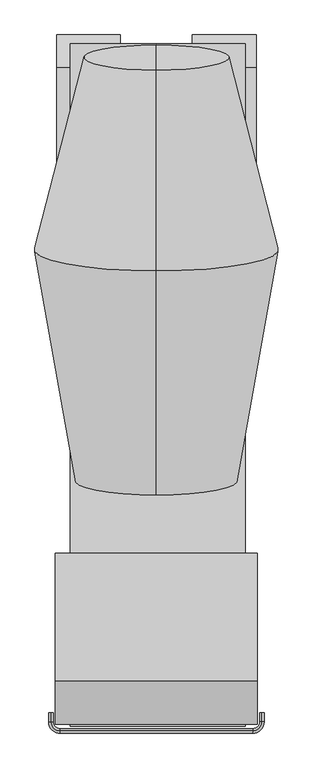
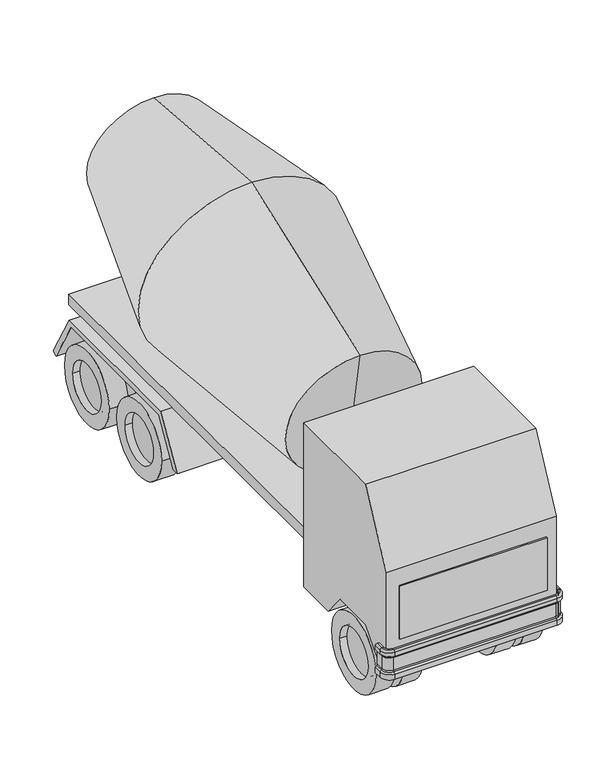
"""IFC4 building model written with IfcOpenShell, lengths in millimetres: geographic element geometry, Camion bétonnière : Camion bétonnière."""

from ifc_helpers import new_model, si_unit, point, frame, frame_2d, origin, place, context, project, spatial, polyline, circle_curve, ellipse_curve, trimmed, segment, composite_curve, outline, extrude, source, transform, mapped, element, save
from ifc_brep_helpers import plane_surface, cylinder_surface, revolved_surface, advanced_brep


def geographic_element_b339a1e2(model_context):
    return source(origin(), model_context, "Body", "SolidModel", [
        extrude(outline(composite_curve([segment(trimmed(circle_curve(frame_2d((-3129.2190592, 514.3449875)), 330.2), [point((-2799.0190592, 514.3449875))], [point((-3459.4190592, 514.3449875))], False, "CARTESIAN"), True, "CONTINUOUS"), segment(trimmed(circle_curve(frame_2d((-3129.2190592, 514.3449875)), 330.2), [point((-3459.4190592, 514.3449875))], [point((-2799.0190592, 514.3449875))], False, "CARTESIAN"), True, "CONTINUOUS")], self_intersect=False)), frame((829.1634615, 0.0, 0.0), z_axis=(1.0, 0.0, 0.0), x_axis=(0.0, 1.0, 0.0)), (0.0, 0.0, 1.0), 172.4421875),
        extrude(outline(composite_curve([segment(trimmed(circle_curve(frame_2d((1874.5809408, 514.3449875)), 330.2), [point((2204.7809408, 514.3449875))], [point((1544.3809408, 514.3449875))], False, "CARTESIAN"), True, "CONTINUOUS"), segment(trimmed(circle_curve(frame_2d((1874.5809408, 514.3449875)), 330.2), [point((1544.3809408, 514.3449875))], [point((2204.7809408, 514.3449875))], False, "CARTESIAN"), True, "CONTINUOUS")], self_intersect=False)), frame((829.1634615, 0.0, 0.0), z_axis=(1.0, 0.0, 0.0), x_axis=(0.0, 1.0, 0.0)), (0.0, 0.0, 1.0), 172.4421875),
        extrude(outline(composite_curve([segment(trimmed(circle_curve(frame_2d((3091.9615385, 514.35)), 330.2), [point((3422.1615385, 514.35))], [point((2761.7615385, 514.35))], False, "CARTESIAN"), True, "CONTINUOUS"), segment(trimmed(circle_curve(frame_2d((3091.9615385, 514.35)), 330.2), [point((2761.7615385, 514.35))], [point((3422.1615385, 514.35))], False, "CARTESIAN"), True, "CONTINUOUS")], self_intersect=False)), frame((829.1634615, 0.0, 0.0), z_axis=(1.0, 0.0, 0.0), x_axis=(0.0, 1.0, 0.0)), (0.0, 0.0, 1.0), 172.4421875),
        extrude(outline(composite_curve([segment(trimmed(circle_curve(frame_2d((-3131.0384615, 514.35)), 330.2), [point((-2800.8384615, 514.35))], [point((-3461.2384615, 514.35))], False, "CARTESIAN"), True, "CONTINUOUS"), segment(trimmed(circle_curve(frame_2d((-3131.0384615, 514.35)), 330.2), [point((-3461.2384615, 514.35))], [point((-2800.8384615, 514.35))], False, "CARTESIAN"), True, "CONTINUOUS")], self_intersect=False)), frame((-1072.859976, 0.0, 0.0), z_axis=(1.0, 0.0, 0.0), x_axis=(0.0, 1.0, 0.0)), (0.0, 0.0, 1.0), 155.7734375),
        extrude(outline(composite_curve([segment(trimmed(circle_curve(frame_2d((1872.7615385, 514.35)), 330.2), [point((2202.9615385, 514.35))], [point((1542.5615385, 514.35))], False, "CARTESIAN"), True, "CONTINUOUS"), segment(trimmed(circle_curve(frame_2d((1872.7615385, 514.35)), 330.2), [point((1542.5615385, 514.35))], [point((2202.9615385, 514.35))], False, "CARTESIAN"), True, "CONTINUOUS")], self_intersect=False)), frame((-1072.859976, 0.0, 0.0), z_axis=(1.0, 0.0, 0.0), x_axis=(0.0, 1.0, 0.0)), (0.0, 0.0, 1.0), 155.7734375),
        extrude(outline(composite_curve([segment(trimmed(circle_curve(frame_2d((3091.9615385, 514.35)), 330.2), [point((3422.1615385, 514.35))], [point((2761.7615385, 514.35))], False, "CARTESIAN"), True, "CONTINUOUS"), segment(trimmed(circle_curve(frame_2d((3091.9615385, 514.35)), 330.2), [point((2761.7615385, 514.35))], [point((3422.1615385, 514.35))], False, "CARTESIAN"), True, "CONTINUOUS")], self_intersect=False)), frame((-1072.859976, 0.0, 0.0), z_axis=(1.0, 0.0, 0.0), x_axis=(0.0, 1.0, 0.0)), (0.0, 0.0, 1.0), 155.7734375),
        extrude(outline(composite_curve([segment(trimmed(circle_curve(frame_2d((3091.9615385, 514.35)), 520.7), [point((3612.6615385, 514.35))], [point((2571.2615385, 514.35))], False, "CARTESIAN"), True, "CONTINUOUS"), segment(trimmed(circle_curve(frame_2d((3091.9615385, 514.35)), 520.7), [point((2571.2615385, 514.35))], [point((3612.6615385, 514.35))], False, "CARTESIAN"), True, "CONTINUOUS")], self_intersect=False)), frame((-805.9615385, 0.0, 0.0), z_axis=(1.0, 0.0, 0.0), x_axis=(0.0, 1.0, 0.0)), (0.0, 0.0, 1.0), 254.0),
        extrude(outline(composite_curve([segment(trimmed(circle_curve(frame_2d((-3139.2915601, 511.4267776)), 520.7), [point((-2618.5915601, 511.4267776))], [point((-3659.9915601, 511.4267776))], False, "CARTESIAN"), True, "CONTINUOUS"), segment(trimmed(circle_curve(frame_2d((-3139.2915601, 511.4267776)), 520.7), [point((-3659.9915601, 511.4267776))], [point((-2618.5915601, 511.4267776))], False, "CARTESIAN"), True, "CONTINUOUS")], self_intersect=False)), frame((-805.9615385, 0.0, 0.0), z_axis=(1.0, 0.0, 0.0), x_axis=(0.0, 1.0, 0.0)), (0.0, 0.0, 1.0), 254.0),
        extrude(outline(composite_curve([segment(trimmed(circle_curve(frame_2d((1872.7615385, 514.35)), 520.7), [point((2393.4615385, 514.35))], [point((1352.0615385, 514.35))], False, "CARTESIAN"), True, "CONTINUOUS"), segment(trimmed(circle_curve(frame_2d((1872.7615385, 514.35)), 520.7), [point((1352.0615385, 514.35))], [point((2393.4615385, 514.35))], False, "CARTESIAN"), True, "CONTINUOUS")], self_intersect=False)), frame((-805.9615385, 0.0, 0.0), z_axis=(1.0, 0.0, 0.0), x_axis=(0.0, 1.0, 0.0)), (0.0, 0.0, 1.0), 254.0),
        extrude(outline(composite_curve([segment(trimmed(circle_curve(frame_2d((3091.9615385, 514.35)), 520.7), [point((3612.6615385, 514.35))], [point((2571.2615385, 514.35))], False, "CARTESIAN"), True, "CONTINUOUS"), segment(trimmed(circle_curve(frame_2d((3091.9615385, 514.35)), 520.7), [point((2571.2615385, 514.35))], [point((3612.6615385, 514.35))], False, "CARTESIAN"), True, "CONTINUOUS")], self_intersect=False)), frame((464.0384615, 0.0, 0.0), z_axis=(1.0, 0.0, 0.0), x_axis=(0.0, 1.0, 0.0)), (0.0, 0.0, 1.0), 254.0),
        extrude(outline(composite_curve([segment(trimmed(circle_curve(frame_2d((-3131.0384615, 514.35)), 520.7), [point((-2610.3384615, 514.35))], [point((-3651.7384615, 514.35))], False, "CARTESIAN"), True, "CONTINUOUS"), segment(trimmed(circle_curve(frame_2d((-3131.0384615, 514.35)), 520.7), [point((-3651.7384615, 514.35))], [point((-2610.3384615, 514.35))], False, "CARTESIAN"), True, "CONTINUOUS")], self_intersect=False)), frame((464.0384615, 0.0, 0.0), z_axis=(1.0, 0.0, 0.0), x_axis=(0.0, 1.0, 0.0)), (0.0, 0.0, 1.0), 254.0),
        extrude(outline(composite_curve([segment(trimmed(circle_curve(frame_2d((1872.7615385, 514.35)), 520.7), [point((2393.4615385, 514.35))], [point((1352.0615385, 514.35))], False, "CARTESIAN"), True, "CONTINUOUS"), segment(trimmed(circle_curve(frame_2d((1872.7615385, 514.35)), 520.7), [point((1352.0615385, 514.35))], [point((2393.4615385, 514.35))], False, "CARTESIAN"), True, "CONTINUOUS")], self_intersect=False)), frame((464.0384615, 0.0, 0.0), z_axis=(1.0, 0.0, 0.0), x_axis=(0.0, 1.0, 0.0)), (0.0, 0.0, 1.0), 254.0),
        extrude(outline(composite_curve([segment(trimmed(circle_curve(frame_2d((3091.9615385, 514.35)), 520.7), [point((3612.6615385, 514.35))], [point((2571.2615385, 514.35))], False, "CARTESIAN"), True, "CONTINUOUS"), segment(trimmed(circle_curve(frame_2d((3091.9615385, 514.35)), 520.7), [point((2571.2615385, 514.35))], [point((3612.6615385, 514.35))], False, "CARTESIAN"), True, "CONTINUOUS")], self_intersect=False), holes=[composite_curve([segment(trimmed(circle_curve(frame_2d((3091.9615385, 514.35)), 330.2), [point((3422.1615385, 514.35))], [point((2761.7615385, 514.35))], True, "CARTESIAN"), True, "CONTINUOUS"), segment(trimmed(circle_curve(frame_2d((3091.9615385, 514.35)), 330.2), [point((2761.7615385, 514.35))], [point((3422.1615385, 514.35))], True, "CARTESIAN"), True, "CONTINUOUS")], self_intersect=False)]), frame((-1171.0865385, 0.0, 0.0), z_axis=(1.0, 0.0, 0.0), x_axis=(0.0, 1.0, 0.0)), (0.0, 0.0, 1.0), 254.0),
        extrude(outline(composite_curve([segment(trimmed(circle_curve(frame_2d((-3131.0384615, 514.35)), 520.7), [point((-2610.3384615, 514.35))], [point((-3651.7384615, 514.35))], False, "CARTESIAN"), True, "CONTINUOUS"), segment(trimmed(circle_curve(frame_2d((-3131.0384615, 514.35)), 520.7), [point((-3651.7384615, 514.35))], [point((-2610.3384615, 514.35))], False, "CARTESIAN"), True, "CONTINUOUS")], self_intersect=False), holes=[composite_curve([segment(trimmed(circle_curve(frame_2d((-3131.0384615, 514.35)), 330.2), [point((-2800.8384615, 514.35))], [point((-3461.2384615, 514.35))], True, "CARTESIAN"), True, "CONTINUOUS"), segment(trimmed(circle_curve(frame_2d((-3131.0384615, 514.35)), 330.2), [point((-3461.2384615, 514.35))], [point((-2800.8384615, 514.35))], True, "CARTESIAN"), True, "CONTINUOUS")], self_intersect=False)]), frame((-1171.0865385, 0.0, 0.0), z_axis=(1.0, 0.0, 0.0), x_axis=(0.0, 1.0, 0.0)), (0.0, 0.0, 1.0), 254.0),
        extrude(outline(composite_curve([segment(trimmed(circle_curve(frame_2d((1872.7615385, 514.35)), 520.7), [point((2393.4615385, 514.35))], [point((1352.0615385, 514.35))], False, "CARTESIAN"), True, "CONTINUOUS"), segment(trimmed(circle_curve(frame_2d((1872.7615385, 514.35)), 520.7), [point((1352.0615385, 514.35))], [point((2393.4615385, 514.35))], False, "CARTESIAN"), True, "CONTINUOUS")], self_intersect=False), holes=[composite_curve([segment(trimmed(circle_curve(frame_2d((1872.7615385, 514.35)), 330.2), [point((2202.9615385, 514.35))], [point((1542.5615385, 514.35))], True, "CARTESIAN"), True, "CONTINUOUS"), segment(trimmed(circle_curve(frame_2d((1872.7615385, 514.35)), 330.2), [point((1542.5615385, 514.35))], [point((2202.9615385, 514.35))], True, "CARTESIAN"), True, "CONTINUOUS")], self_intersect=False)]), frame((-1171.0865385, 0.0, 0.0), z_axis=(1.0, 0.0, 0.0), x_axis=(0.0, 1.0, 0.0)), (0.0, 0.0, 1.0), 254.0),
        advanced_brep(
        [(-1212.3615385, -3791.4384615, 661.0144121), (-1263.1615385, -3791.4384615, 661.0144121), (-1263.1615385, -3791.4384615, 734.1328754), (-1243.6602579, -3791.4384615, 753.634156), (-1236.2207701, -3791.4384615, 771.5946682), (-1236.2207701, -3791.4384615, 953.7526192), (-1243.6602579, -3791.4384615, 971.7131315), (-1263.1615385, -3791.4384615, 991.2144121), (-1263.1615385, -3791.4384615, 1042.0144121), (-1237.7615385, -3791.4384615, 1067.4144121), (-1212.3615385, -3791.4384615, 1067.4144121), (-1212.3615385, -3893.0384615, 661.0144121), (-1263.1615385, -3893.0384615, 661.0144121), (-1263.1615385, -3893.0384615, 734.1328754), (-1243.6602579, -3893.0384615, 753.634156), (-1236.2207701, -3893.0384615, 771.5946682), (-1236.2207701, -3893.0384615, 953.7526192), (-1243.6602579, -3893.0384615, 971.7131315), (-1263.1615385, -3893.0384615, 991.2144121), (-1263.1615385, -3893.0384615, 1042.0144121), (-1237.7615385, -3893.0384615, 1067.4144121), (-1212.3615385, -3893.0384615, 1067.4144121), (-1136.1615385, -4020.0384615, 661.0144121), (-1136.1615385, -3969.2384615, 661.0144121), (-1136.1615385, -4020.0384615, 734.1328754), (-1136.1615385, -4000.5371809, 753.634156), (-1136.1615385, -3993.0976932, 771.5946682), (-1136.1615385, -3993.0976932, 953.7526192), (-1136.1615385, -4000.5371809, 971.7131315), (-1136.1615385, -4020.0384615, 991.2144121), (-1136.1615385, -4020.0384615, 1042.0144121), (-1136.1615385, -3994.6384615, 1067.4144121), (-1136.1615385, -3969.2384615, 1067.4144121), (1048.2384615, -3969.2384615, 661.0144121), (1048.2384615, -4020.0384615, 661.0144121), (1048.2384615, -4020.0384615, 734.1328754), (1048.2384615, -4000.5371809, 753.634156), (1048.2384615, -3993.0976932, 771.5946682), (1048.2384615, -3993.0976932, 953.7526192), (1048.2384615, -4000.5371809, 971.7131315), (1048.2384615, -4020.0384615, 991.2144121), (1048.2384615, -4020.0384615, 1042.0144121), (1048.2384615, -3994.6384615, 1067.4144121), (1048.2384615, -3969.2384615, 1067.4144121), (1175.2384615, -3893.0384615, 661.0144121), (1124.4384615, -3893.0384615, 661.0144121), (1175.2384615, -3893.0384615, 734.1328754), (1155.7371809, -3893.0384615, 753.634156), (1148.2976932, -3893.0384615, 771.5946682), (1148.2976932, -3893.0384615, 953.7526192), (1155.7371809, -3893.0384615, 971.7131315), (1175.2384615, -3893.0384615, 991.2144121), (1175.2384615, -3893.0384615, 1042.0144121), (1149.8384615, -3893.0384615, 1067.4144121), (1124.4384615, -3893.0384615, 1067.4144121), (1124.4384615, -3791.4384615, 661.0144121), (1124.4384615, -3791.4384615, 1067.4144121), (1149.8384615, -3791.4384615, 1067.4144121), (1175.2384615, -3791.4384615, 1042.0144121), (1175.2384615, -3791.4384615, 991.2144121), (1155.7371809, -3791.4384615, 971.7131315), (1148.2976932, -3791.4384615, 953.7526192), (1148.2976932, -3791.4384615, 771.5946682), (1155.7371809, -3791.4384615, 753.634156), (1175.2384615, -3791.4384615, 734.1328754), (1175.2384615, -3791.4384615, 661.0144121)],
        [
            (0, 1),
            (1, 2),
            (2, 3),
            (3, 4, circle_curve(frame((-1261.6207701, -3791.4384615, 771.5946682), z_axis=(0.0, -1.0, 0.0), x_axis=(1.0, 0.0, 0.0)), 25.4)),
            (4, 5),
            (5, 6, circle_curve(frame((-1261.6207701, -3791.4384615, 953.7526192), z_axis=(0.0, -1.0, 0.0), x_axis=(1.0, 0.0, 0.0)), 25.4)),
            (6, 7),
            (7, 8),
            (8, 9, circle_curve(frame((-1237.7615385, -3791.4384615, 1042.0144121), z_axis=(0.0, 1.0, 0.0), x_axis=(1.0, 0.0, 0.0)), 25.4)),
            (9, 10),
            (10, 0),
            (0, 11),
            (11, 12),
            (12, 1),
            (12, 13),
            (13, 2),
            (13, 14),
            (14, 3),
            (14, 15, circle_curve(frame((-1261.6207701, -3893.0384615, 771.5946682), z_axis=(0.0, -1.0, 0.0), x_axis=(1.0, 0.0, 0.0)), 25.4)),
            (15, 4),
            (15, 16),
            (16, 5),
            (16, 17, circle_curve(frame((-1261.6207701, -3893.0384615, 953.7526192), z_axis=(0.0, -1.0, 0.0), x_axis=(1.0, 0.0, 0.0)), 25.4)),
            (17, 6),
            (17, 18),
            (18, 7),
            (18, 19),
            (19, 8),
            (19, 20, circle_curve(frame((-1237.7615385, -3893.0384615, 1042.0144121), z_axis=(0.0, 1.0, 0.0), x_axis=(1.0, 0.0, 0.0)), 25.4)),
            (20, 9),
            (20, 21),
            (21, 10),
            (21, 11),
            (22, 12, circle_curve(frame((-1136.1615385, -3893.0384615, 661.0144121), z_axis=(0.0, 0.0, -1.0), x_axis=(-1.0, 0.0, 0.0)), 127.0)),
            (11, 23, circle_curve(frame((-1136.1615385, -3893.0384615, 661.0144121), z_axis=(0.0, 0.0, 1.0), x_axis=(-1.0, 0.0, 0.0)), 76.2)),
            (23, 22),
            (24, 13, circle_curve(frame((-1136.1615385, -3893.0384615, 734.1328754), z_axis=(0.0, 0.0, -1.0), x_axis=(-1.0, 0.0, 0.0)), 127.0)),
            (22, 24),
            (25, 14, circle_curve(frame((-1136.1615385, -3893.0384615, 753.634156), z_axis=(0.0, 0.0, -1.0), x_axis=(-1.0, 0.0, 0.0)), 107.4987194)),
            (24, 25),
            (26, 15, circle_curve(frame((-1136.1615385, -3893.0384615, 771.5946682), z_axis=(0.0, 0.0, -1.0), x_axis=(-1.0, 0.0, 0.0)), 100.0592316)),
            (25, 26, circle_curve(frame((-1136.1615385, -4018.4976932, 771.5946682), z_axis=(1.0, 0.0, 0.0), x_axis=(0.0, 1.0, 0.0)), 25.4)),
            (27, 16, circle_curve(frame((-1136.1615385, -3893.0384615, 953.7526192), z_axis=(0.0, 0.0, -1.0), x_axis=(-1.0, 0.0, 0.0)), 100.0592316)),
            (26, 27),
            (28, 17, circle_curve(frame((-1136.1615385, -3893.0384615, 971.7131315), z_axis=(0.0, 0.0, -1.0), x_axis=(-1.0, 0.0, 0.0)), 107.4987194)),
            (27, 28, circle_curve(frame((-1136.1615385, -4018.4976932, 953.7526192), z_axis=(1.0, 0.0, 0.0), x_axis=(0.0, 1.0, 0.0)), 25.4)),
            (29, 18, circle_curve(frame((-1136.1615385, -3893.0384615, 991.2144121), z_axis=(0.0, 0.0, -1.0), x_axis=(-1.0, 0.0, 0.0)), 127.0)),
            (28, 29),
            (30, 19, circle_curve(frame((-1136.1615385, -3893.0384615, 1042.0144121), z_axis=(0.0, 0.0, -1.0), x_axis=(-1.0, 0.0, 0.0)), 127.0)),
            (29, 30),
            (31, 20, circle_curve(frame((-1136.1615385, -3893.0384615, 1067.4144121), z_axis=(0.0, 0.0, -1.0), x_axis=(-1.0, 0.0, 0.0)), 101.6)),
            (30, 31, circle_curve(frame((-1136.1615385, -3994.6384615, 1042.0144121), z_axis=(-1.0, 0.0, 0.0), x_axis=(0.0, 1.0, 0.0)), 25.4)),
            (32, 21, circle_curve(frame((-1136.1615385, -3893.0384615, 1067.4144121), z_axis=(0.0, 0.0, -1.0), x_axis=(-1.0, 0.0, 0.0)), 76.2)),
            (31, 32),
            (32, 23),
            (23, 33),
            (33, 34),
            (34, 22),
            (34, 35),
            (35, 24),
            (35, 36),
            (36, 25),
            (36, 37, circle_curve(frame((1048.2384615, -4018.4976932, 771.5946682), z_axis=(1.0, 0.0, 0.0), x_axis=(0.0, 1.0, 0.0)), 25.4)),
            (37, 26),
            (37, 38),
            (38, 27),
            (38, 39, circle_curve(frame((1048.2384615, -4018.4976932, 953.7526192), z_axis=(1.0, 0.0, 0.0), x_axis=(0.0, 1.0, 0.0)), 25.4)),
            (39, 28),
            (39, 40),
            (40, 29),
            (40, 41),
            (41, 30),
            (41, 42, circle_curve(frame((1048.2384615, -3994.6384615, 1042.0144121), z_axis=(-1.0, 0.0, 0.0), x_axis=(0.0, 1.0, 0.0)), 25.4)),
            (42, 31),
            (42, 43),
            (43, 32),
            (43, 33),
            (44, 34, circle_curve(frame((1048.2384615, -3893.0384615, 661.0144121), z_axis=(0.0, 0.0, -1.0), x_axis=(0.0, -1.0, 0.0)), 127.0)),
            (33, 45, circle_curve(frame((1048.2384615, -3893.0384615, 661.0144121), z_axis=(0.0, 0.0, 1.0), x_axis=(0.0, -1.0, 0.0)), 76.2)),
            (45, 44),
            (46, 35, circle_curve(frame((1048.2384615, -3893.0384615, 734.1328754), z_axis=(0.0, 0.0, -1.0), x_axis=(0.0, -1.0, 0.0)), 127.0)),
            (44, 46),
            (47, 36, circle_curve(frame((1048.2384615, -3893.0384615, 753.634156), z_axis=(0.0, 0.0, -1.0), x_axis=(0.0, -1.0, 0.0)), 107.4987194)),
            (46, 47),
            (48, 37, circle_curve(frame((1048.2384615, -3893.0384615, 771.5946682), z_axis=(0.0, 0.0, -1.0), x_axis=(0.0, -1.0, 0.0)), 100.0592316)),
            (47, 48, circle_curve(frame((1173.6976932, -3893.0384615, 771.5946682), z_axis=(0.0, 1.0, 0.0), x_axis=(-1.0, 0.0, 0.0)), 25.4)),
            (49, 38, circle_curve(frame((1048.2384615, -3893.0384615, 953.7526192), z_axis=(0.0, 0.0, -1.0), x_axis=(0.0, -1.0, 0.0)), 100.0592316)),
            (48, 49),
            (50, 39, circle_curve(frame((1048.2384615, -3893.0384615, 971.7131315), z_axis=(0.0, 0.0, -1.0), x_axis=(0.0, -1.0, 0.0)), 107.4987194)),
            (49, 50, circle_curve(frame((1173.6976932, -3893.0384615, 953.7526192), z_axis=(0.0, 1.0, 0.0), x_axis=(-1.0, 0.0, 0.0)), 25.4)),
            (51, 40, circle_curve(frame((1048.2384615, -3893.0384615, 991.2144121), z_axis=(0.0, 0.0, -1.0), x_axis=(0.0, -1.0, 0.0)), 127.0)),
            (50, 51),
            (52, 41, circle_curve(frame((1048.2384615, -3893.0384615, 1042.0144121), z_axis=(0.0, 0.0, -1.0), x_axis=(0.0, -1.0, 0.0)), 127.0)),
            (51, 52),
            (53, 42, circle_curve(frame((1048.2384615, -3893.0384615, 1067.4144121), z_axis=(0.0, 0.0, -1.0), x_axis=(0.0, -1.0, 0.0)), 101.6)),
            (52, 53, circle_curve(frame((1149.8384615, -3893.0384615, 1042.0144121), z_axis=(0.0, -1.0, 0.0), x_axis=(-1.0, 0.0, 0.0)), 25.4)),
            (54, 43, circle_curve(frame((1048.2384615, -3893.0384615, 1067.4144121), z_axis=(0.0, 0.0, -1.0), x_axis=(0.0, -1.0, 0.0)), 76.2)),
            (53, 54),
            (54, 45),
            (55, 56),
            (56, 57),
            (57, 58, circle_curve(frame((1149.8384615, -3791.4384615, 1042.0144121), z_axis=(0.0, 1.0, 0.0), x_axis=(-1.0, 0.0, 0.0)), 25.4)),
            (58, 59),
            (59, 60),
            (60, 61, circle_curve(frame((1173.6976932, -3791.4384615, 953.7526192), z_axis=(0.0, -1.0, 0.0), x_axis=(-1.0, 0.0, 0.0)), 25.4)),
            (61, 62),
            (62, 63, circle_curve(frame((1173.6976932, -3791.4384615, 771.5946682), z_axis=(0.0, -1.0, 0.0), x_axis=(-1.0, 0.0, 0.0)), 25.4)),
            (63, 64),
            (64, 65),
            (65, 55),
            (45, 55),
            (65, 44),
            (64, 46),
            (63, 47),
            (62, 48),
            (61, 49),
            (60, 50),
            (59, 51),
            (58, 52),
            (57, 53),
            (56, 54),
        ],
        [
            plane_surface(frame((-2331.7840944, -3791.4384615, 0.0), z_axis=(0.0, 1.0, 0.0), x_axis=(0.0, 0.0, -1.0))),
            plane_surface(frame((-1212.3615385, -3791.4384615, 661.0144121), z_axis=(0.0, 0.0, -1.0), x_axis=(0.0, -1.0, 0.0))),
            plane_surface(frame((-1263.1615385, -3791.4384615, 661.0144121), z_axis=(-1.0, 0.0, 0.0), x_axis=(0.0, -1.0, 0.0))),
            plane_surface(frame((-1263.1615385, -3791.4384615, 734.1328754), z_axis=(-0.7071067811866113, 0.0, 0.7071067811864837), x_axis=(0.0, -1.0, 0.0))),
            revolved_surface(polyline([(-1236.2207701, -3893.0384615, 771.5946682), (-1236.2207701, -3791.4384615, 771.5946682)]), (-1261.6207701, -3791.4384615, 771.5946682), (0.0, -1.0, 0.0)),
            plane_surface(frame((-1236.2207701, -3791.4384615, 771.5946682), z_axis=(-1.0, 0.0, 0.0), x_axis=(0.0, -1.0, 0.0))),
            revolved_surface(polyline([(-1236.2207701, -3893.0384615, 953.7526192), (-1236.2207701, -3791.4384615, 953.7526192)]), (-1261.6207701, -3791.4384615, 953.7526192), (0.0, -1.0, 0.0)),
            plane_surface(frame((-1243.6602579, -3791.4384615, 971.7131315), z_axis=(-0.7071067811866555, 0.0, -0.7071067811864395), x_axis=(0.0, -1.0, 0.0))),
            plane_surface(frame((-1263.1615385, -3791.4384615, 991.2144121), z_axis=(-1.0, 0.0, 0.0), x_axis=(0.0, -1.0, 0.0))),
            cylinder_surface(frame((-1237.7615385, -3791.4384615, 1042.0144121), z_axis=(0.0, 1.0, 0.0), x_axis=(1.0, 0.0, 0.0)), 25.4),
            plane_surface(frame((-1237.7615385, -3791.4384615, 1067.4144121), z_axis=(0.0, 0.0, 1.0), x_axis=(0.0, -1.0, 0.0))),
            plane_surface(frame((-1212.3615385, -3791.4384615, 1067.4144121), z_axis=(1.0, 0.0, 0.0), x_axis=(0.0, -1.0, 0.0))),
            plane_surface(frame((-1136.1615385, -3893.0384615, 661.0144121), z_axis=(0.0, 0.0, -1.0), x_axis=(-1.0, 0.0, 0.0))),
            cylinder_surface(frame((-1136.1615385, -3893.0384615, 0.0), z_axis=(0.0, 0.0, 1.0), x_axis=(-1.0, 0.0, 0.0)), 127.0),
            revolved_surface(polyline([(-1263.1615385, -3893.0384615, 734.1328754), (-1243.6602579, -3893.0384615, 753.634156)]), (-1136.1615385, -3893.0384615, 0.0), (0.0, 0.0, 1.0)),
            revolved_surface(trimmed(ellipse_curve(frame((-1261.6207701, -3893.0384615, 771.5946682), z_axis=(0.0, -1.0, 0.0), x_axis=(1.0, 0.0, 0.0)), 25.4, 25.4), [point((-1243.6602579, -3893.0384615, 753.634156))], [point((-1236.2207701, -3893.0384615, 771.5946682))], True, "CARTESIAN"), (-1136.1615385, -3893.0384615, 0.0), (0.0, 0.0, 1.0)),
            cylinder_surface(frame((-1136.1615385, -3893.0384615, 0.0), z_axis=(0.0, 0.0, 1.0), x_axis=(-1.0, 0.0, 0.0)), 100.0592316),
            revolved_surface(trimmed(ellipse_curve(frame((-1261.6207701, -3893.0384615, 953.7526192), z_axis=(0.0, -1.0, 0.0), x_axis=(1.0, 0.0, 0.0)), 25.4, 25.4), [point((-1236.2207701, -3893.0384615, 953.7526192))], [point((-1243.6602579, -3893.0384615, 971.7131315))], True, "CARTESIAN"), (-1136.1615385, -3893.0384615, 0.0), (0.0, 0.0, 1.0)),
            revolved_surface(polyline([(-1243.6602579, -3893.0384615, 971.7131315), (-1263.1615385, -3893.0384615, 991.2144121)]), (-1136.1615385, -3893.0384615, 0.0), (0.0, 0.0, 1.0)),
            revolved_surface(trimmed(ellipse_curve(frame((-1237.7615385, -3893.0384615, 1042.0144121), z_axis=(0.0, 1.0, 0.0), x_axis=(1.0, 0.0, 0.0)), 25.4, 25.4), [point((-1263.1615385, -3893.0384615, 1042.0144121))], [point((-1237.7615385, -3893.0384615, 1067.4144121))], True, "CARTESIAN"), (-1136.1615385, -3893.0384615, 0.0), (0.0, 0.0, 1.0)),
            plane_surface(frame((-1136.1615385, -3893.0384615, 1067.4144121), z_axis=(0.0, 0.0, 1.0), x_axis=(-1.0, 0.0, 0.0))),
            revolved_surface(polyline([(-1212.3615385, -3893.0384615, 1067.4144121), (-1212.3615385, -3893.0384615, 661.0144121)]), (-1136.1615385, -3893.0384615, 0.0), (0.0, 0.0, 1.0)),
            plane_surface(frame((-1136.1615385, -3969.2384615, 661.0144121), z_axis=(0.0, 0.0, -1.0), x_axis=(1.0, 0.0, 0.0))),
            plane_surface(frame((-1136.1615385, -4020.0384615, 661.0144121), z_axis=(0.0, -1.0, 0.0), x_axis=(1.0, 0.0, 0.0))),
            plane_surface(frame((-1136.1615385, -4020.0384615, 734.1328754), z_axis=(0.0, -0.7071067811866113, 0.7071067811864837), x_axis=(1.0, 0.0, 0.0))),
            revolved_surface(polyline([(1048.2384615, -3993.0976932, 771.5946682), (-1136.1615385, -3993.0976932, 771.5946682)]), (-1136.1615385, -4018.4976932, 771.5946682), (1.0, 0.0, 0.0)),
            plane_surface(frame((-1136.1615385, -3993.0976932, 771.5946682), z_axis=(0.0, -1.0, 0.0), x_axis=(1.0, 0.0, 0.0))),
            revolved_surface(polyline([(1048.2384615, -3993.0976932, 953.7526192), (-1136.1615385, -3993.0976932, 953.7526192)]), (-1136.1615385, -4018.4976932, 953.7526192), (1.0, 0.0, 0.0)),
            plane_surface(frame((-1136.1615385, -4000.5371809, 971.7131315), z_axis=(0.0, -0.7071067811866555, -0.7071067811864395), x_axis=(1.0, 0.0, 0.0))),
            plane_surface(frame((-1136.1615385, -4020.0384615, 991.2144121), z_axis=(0.0, -1.0, 0.0), x_axis=(1.0, 0.0, 0.0))),
            cylinder_surface(frame((-1136.1615385, -3994.6384615, 1042.0144121), z_axis=(-1.0, 0.0, 0.0), x_axis=(0.0, 1.0, 0.0)), 25.4),
            plane_surface(frame((-1136.1615385, -3994.6384615, 1067.4144121), z_axis=(0.0, 0.0, 1.0), x_axis=(1.0, 0.0, 0.0))),
            plane_surface(frame((-1136.1615385, -3969.2384615, 1067.4144121), z_axis=(0.0, 1.0, 0.0), x_axis=(1.0, 0.0, 0.0))),
            plane_surface(frame((1048.2384615, -3893.0384615, 661.0144121), z_axis=(0.0, 0.0, -1.0), x_axis=(0.0, -1.0, 0.0))),
            cylinder_surface(frame((1048.2384615, -3893.0384615, 0.0), z_axis=(0.0, 0.0, 1.0), x_axis=(0.0, -1.0, 0.0)), 127.0),
            revolved_surface(polyline([(1048.2384615, -4020.0384615, 734.1328754), (1048.2384615, -4000.5371809, 753.634156)]), (1048.2384615, -3893.0384615, 0.0), (0.0, 0.0, 1.0)),
            revolved_surface(trimmed(ellipse_curve(frame((1048.2384615, -4018.4976932, 771.5946682), z_axis=(1.0, 0.0, 0.0), x_axis=(0.0, 1.0, 0.0)), 25.4, 25.4), [point((1048.2384615, -4000.5371809, 753.634156))], [point((1048.2384615, -3993.0976932, 771.5946682))], True, "CARTESIAN"), (1048.2384615, -3893.0384615, 0.0), (0.0, 0.0, 1.0)),
            cylinder_surface(frame((1048.2384615, -3893.0384615, 0.0), z_axis=(0.0, 0.0, 1.0), x_axis=(0.0, -1.0, 0.0)), 100.0592316),
            revolved_surface(trimmed(ellipse_curve(frame((1048.2384615, -4018.4976932, 953.7526192), z_axis=(1.0, 0.0, 0.0), x_axis=(0.0, 1.0, 0.0)), 25.4, 25.4), [point((1048.2384615, -3993.0976932, 953.7526192))], [point((1048.2384615, -4000.5371809, 971.7131315))], True, "CARTESIAN"), (1048.2384615, -3893.0384615, 0.0), (0.0, 0.0, 1.0)),
            revolved_surface(polyline([(1048.2384615, -4000.5371809, 971.7131315), (1048.2384615, -4020.0384615, 991.2144121)]), (1048.2384615, -3893.0384615, 0.0), (0.0, 0.0, 1.0)),
            revolved_surface(trimmed(ellipse_curve(frame((1048.2384615, -3994.6384615, 1042.0144121), z_axis=(-1.0, 0.0, 0.0), x_axis=(0.0, 1.0, 0.0)), 25.4, 25.4), [point((1048.2384615, -4020.0384615, 1042.0144121))], [point((1048.2384615, -3994.6384615, 1067.4144121))], True, "CARTESIAN"), (1048.2384615, -3893.0384615, 0.0), (0.0, 0.0, 1.0)),
            plane_surface(frame((1048.2384615, -3893.0384615, 1067.4144121), z_axis=(0.0, 0.0, 1.0), x_axis=(0.0, -1.0, 0.0))),
            revolved_surface(polyline([(1048.2384615, -3969.2384614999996, 1067.4144121), (1048.2384615, -3969.2384614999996, 661.0144121)]), (1048.2384615, -3893.0384615, 0.0), (0.0, 0.0, 1.0)),
            plane_surface(frame((106.6159056, -3791.4384615, 0.0), z_axis=(0.0, 1.0, 0.0), x_axis=(0.0, 0.0, 1.0))),
            plane_surface(frame((1124.4384615, -3893.0384615, 661.0144121), z_axis=(0.0, 0.0, -1.0), x_axis=(0.0, 1.0, 0.0))),
            plane_surface(frame((1175.2384615, -3893.0384615, 661.0144121), z_axis=(1.0, 0.0, 0.0), x_axis=(0.0, 1.0, 0.0))),
            plane_surface(frame((1175.2384615, -3893.0384615, 734.1328754), z_axis=(0.7071067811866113, 0.0, 0.7071067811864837), x_axis=(0.0, 1.0, 0.0))),
            revolved_surface(polyline([(1148.2976932, -3791.4384615, 771.5946682), (1148.2976932, -3893.0384615, 771.5946682)]), (1173.6976932, -3893.0384615, 771.5946682), (0.0, 1.0, 0.0)),
            plane_surface(frame((1148.2976932, -3893.0384615, 771.5946682), z_axis=(1.0, 0.0, 0.0), x_axis=(0.0, 1.0, 0.0))),
            revolved_surface(polyline([(1148.2976932, -3791.4384615, 953.7526192), (1148.2976932, -3893.0384615, 953.7526192)]), (1173.6976932, -3893.0384615, 953.7526192), (0.0, 1.0, 0.0)),
            plane_surface(frame((1155.7371809, -3893.0384615, 971.7131315), z_axis=(0.7071067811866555, 0.0, -0.7071067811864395), x_axis=(0.0, 1.0, 0.0))),
            plane_surface(frame((1175.2384615, -3893.0384615, 991.2144121), z_axis=(1.0, 0.0, 0.0), x_axis=(0.0, 1.0, 0.0))),
            cylinder_surface(frame((1149.8384615, -3893.0384615, 1042.0144121), z_axis=(0.0, -1.0, 0.0), x_axis=(-1.0, 0.0, 0.0)), 25.4),
            plane_surface(frame((1149.8384615, -3893.0384615, 1067.4144121), z_axis=(0.0, 0.0, 1.0), x_axis=(0.0, 1.0, 0.0))),
            plane_surface(frame((1124.4384615, -3893.0384615, 1067.4144121), z_axis=(-1.0, 0.0, 0.0), x_axis=(0.0, 1.0, 0.0))),
        ],
        [
            (0, [[1, 2, 3, 4, 5, 6, 7, 8, 9, 10, 11]]),
            (1, [[-1, 12, 13, 14]]),
            (2, [[-2, -14, 15, 16]]),
            (3, [[-3, -16, 17, 18]]),
            (4, [[-4, -18, 19, 20]]),
            (5, [[-5, -20, 21, 22]]),
            (6, [[-6, -22, 23, 24]]),
            (7, [[-7, -24, 25, 26]]),
            (8, [[-8, -26, 27, 28]]),
            (9, [[-9, -28, 29, 30]]),
            (10, [[-10, -30, 31, 32]]),
            (11, [[-11, -32, 33, -12]]),
            (12, [[34, -13, 35, 36]]),
            (13, [[37, -15, -34, 38]]),
            (14, [[39, -17, -37, 40]]),
            (15, [[41, -19, -39, 42]]),
            (16, [[43, -21, -41, 44]]),
            (17, [[45, -23, -43, 46]]),
            (18, [[47, -25, -45, 48]]),
            (13, [[49, -27, -47, 50]]),
            (19, [[51, -29, -49, 52]]),
            (20, [[53, -31, -51, 54]]),
            (21, [[-35, -33, -53, 55]]),
            (22, [[-36, 56, 57, 58]]),
            (23, [[-38, -58, 59, 60]]),
            (24, [[-40, -60, 61, 62]]),
            (25, [[-42, -62, 63, 64]]),
            (26, [[-44, -64, 65, 66]]),
            (27, [[-46, -66, 67, 68]]),
            (28, [[-48, -68, 69, 70]]),
            (29, [[-50, -70, 71, 72]]),
            (30, [[-52, -72, 73, 74]]),
            (31, [[-54, -74, 75, 76]]),
            (32, [[-55, -76, 77, -56]]),
            (33, [[78, -57, 79, 80]]),
            (34, [[81, -59, -78, 82]]),
            (35, [[83, -61, -81, 84]]),
            (36, [[85, -63, -83, 86]]),
            (37, [[87, -65, -85, 88]]),
            (38, [[89, -67, -87, 90]]),
            (39, [[91, -69, -89, 92]]),
            (34, [[93, -71, -91, 94]]),
            (40, [[95, -73, -93, 96]]),
            (41, [[97, -75, -95, 98]]),
            (42, [[-79, -77, -97, 99]]),
            (43, [[100, 101, 102, 103, 104, 105, 106, 107, 108, 109, 110]]),
            (44, [[-80, 111, -110, 112]]),
            (45, [[-82, -112, -109, 113]]),
            (46, [[-84, -113, -108, 114]]),
            (47, [[-86, -114, -107, 115]]),
            (48, [[-88, -115, -106, 116]]),
            (49, [[-90, -116, -105, 117]]),
            (50, [[-92, -117, -104, 118]]),
            (51, [[-94, -118, -103, 119]]),
            (52, [[-96, -119, -102, 120]]),
            (53, [[-98, -120, -101, 121]]),
            (54, [[-99, -121, -100, -111]]),
        ],
    ),
        extrude(outline(composite_curve([segment(trimmed(circle_curve(frame_2d((3091.9615385, 514.35)), 520.7), [point((3612.6615385, 514.35))], [point((2571.2615385, 514.35))], False, "CARTESIAN"), True, "CONTINUOUS"), segment(trimmed(circle_curve(frame_2d((3091.9615385, 514.35)), 520.7), [point((2571.2615385, 514.35))], [point((3612.6615385, 514.35))], False, "CARTESIAN"), True, "CONTINUOUS")], self_intersect=False), holes=[composite_curve([segment(trimmed(circle_curve(frame_2d((3091.9615385, 514.35)), 330.2), [point((3422.1615385, 514.35))], [point((2761.7615385, 514.35))], True, "CARTESIAN"), True, "CONTINUOUS"), segment(trimmed(circle_curve(frame_2d((3091.9615385, 514.35)), 330.2), [point((2761.7615385, 514.35))], [point((3422.1615385, 514.35))], True, "CARTESIAN"), True, "CONTINUOUS")], self_intersect=False)]), frame((829.1634615, 0.0, 0.0), z_axis=(1.0, 0.0, 0.0), x_axis=(0.0, 1.0, 0.0)), (0.0, 0.0, 1.0), 254.0),
        extrude(outline(composite_curve([segment(trimmed(circle_curve(frame_2d((-3131.0384615, 514.35)), 520.7), [point((-2610.3384615, 514.35))], [point((-3651.7384615, 514.35))], False, "CARTESIAN"), True, "CONTINUOUS"), segment(trimmed(circle_curve(frame_2d((-3131.0384615, 514.35)), 520.7), [point((-3651.7384615, 514.35))], [point((-2610.3384615, 514.35))], False, "CARTESIAN"), True, "CONTINUOUS")], self_intersect=False), holes=[composite_curve([segment(trimmed(circle_curve(frame_2d((-3131.0384615, 514.35)), 330.2), [point((-2800.8384615, 514.35))], [point((-3461.2384615, 514.35))], True, "CARTESIAN"), True, "CONTINUOUS"), segment(trimmed(circle_curve(frame_2d((-3131.0384615, 514.35)), 330.2), [point((-3461.2384615, 514.35))], [point((-2800.8384615, 514.35))], True, "CARTESIAN"), True, "CONTINUOUS")], self_intersect=False)]), frame((829.1634615, 0.0, 0.0), z_axis=(1.0, 0.0, 0.0), x_axis=(0.0, 1.0, 0.0)), (0.0, 0.0, 1.0), 254.0),
        extrude(outline(composite_curve([segment(trimmed(circle_curve(frame_2d((1872.7615385, 514.35)), 520.7), [point((2393.4615385, 514.35))], [point((1352.0615385, 514.35))], False, "CARTESIAN"), True, "CONTINUOUS"), segment(trimmed(circle_curve(frame_2d((1872.7615385, 514.35)), 520.7), [point((1352.0615385, 514.35))], [point((2393.4615385, 514.35))], False, "CARTESIAN"), True, "CONTINUOUS")], self_intersect=False), holes=[composite_curve([segment(trimmed(circle_curve(frame_2d((1872.7615385, 514.35)), 330.2), [point((2202.9615385, 514.35))], [point((1542.5615385, 514.35))], True, "CARTESIAN"), True, "CONTINUOUS"), segment(trimmed(circle_curve(frame_2d((1872.7615385, 514.35)), 330.2), [point((1542.5615385, 514.35))], [point((2202.9615385, 514.35))], True, "CARTESIAN"), True, "CONTINUOUS")], self_intersect=False)]), frame((829.1634615, 0.0, 0.0), z_axis=(1.0, 0.0, 0.0), x_axis=(0.0, 1.0, 0.0)), (0.0, 0.0, 1.0), 254.0),
        extrude(outline(polyline([(362.4384615, 3777.7615385), (362.4384615, -1683.2384615), (725.7603556, -1683.2384615), (725.7603556, -3004.0384615), (-798.2396444, -3004.0384615), (-798.2396444, -1683.2384615), (-450.3615385, -1683.2384615), (-450.3615385, 3777.7615385), (362.4384615, 3777.7615385)])), frame((0.0, 0.0, 711.2), z_axis=(0.0, 0.0, 1.0), x_axis=(1.0, 0.0, 0.0)), (0.0, 0.0, 1.0), 508.0),
        advanced_brep(
        [(-43.9615385, -1168.0113462, 2355.2104547), (-43.9615385, -1009.570534, 1454.7367752), (-43.9615385, -1326.4521585, 3255.6841343), (-43.9615385, 1686.1636133, 1454.7367752), (-43.9615385, 1207.3779879, 4175.8403069), (-43.9615385, 3762.828493, 2387.7409698), (-43.9615385, 3477.789427, 4007.7161067), (-43.9615385, 3620.30896, 3197.7285383)],
        [
            (0, 1),
            (1, 2, circle_curve(frame((-43.9615385, -1168.0113462, 2355.2104547), z_axis=(0.0, -0.9848707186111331, -0.17329070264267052), x_axis=(0.0, 0.17329070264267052, -0.9848707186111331)), 914.3064795)),
            (2, 0),
            (2, 1, circle_curve(frame((-43.9615385, -1168.0113462, 2355.2104547), z_axis=(0.0, -0.9848707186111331, -0.17329070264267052), x_axis=(0.0, 0.17329070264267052, -0.9848707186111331)), 914.3064795)),
            (1, 3),
            (3, 4, circle_curve(frame((-43.9615385, 1446.7708006, 2815.2885411), z_axis=(0.0, -0.9848707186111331, -0.17329070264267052), x_axis=(0.0, 0.17329070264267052, -0.9848707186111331)), 1381.452144)),
            (4, 2),
            (4, 3, circle_curve(frame((-43.9615385, 1446.7708006, 2815.2885411), z_axis=(0.0, -0.9848707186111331, -0.17329070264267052), x_axis=(0.0, 0.17329070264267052, -0.9848707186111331)), 1381.452144)),
            (3, 5),
            (5, 6, circle_curve(frame((-43.9615385, 3620.30896, 3197.7285383), z_axis=(0.0, -0.9848707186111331, -0.17329070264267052), x_axis=(0.0, 0.17329070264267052, -0.9848707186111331)), 822.4303486)),
            (6, 4),
            (5, 7),
            (7, 6),
            (5, 6, circle_curve(frame((-43.9615385, 3620.30896, 3197.7285383), z_axis=(0.0, 0.9848707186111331, 0.17329070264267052), x_axis=(0.0, 0.17329070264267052, -0.9848707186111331)), 822.4303486)),
        ],
        [
            plane_surface(frame((-43.9615385, -1168.0113462, 2355.2104547), z_axis=(0.0, -0.9848707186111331, -0.17329070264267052), x_axis=(0.0, 0.17329070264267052, -0.9848707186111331))),
            revolved_surface(polyline([(-43.9615385, 1686.1636133, 1454.7367752), (-43.9615385, -1009.570534, 1454.7367752)]), (-43.9615385, -1168.0113462, 2355.2104547), (0.0, -0.9848707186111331, -0.17329070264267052)),
            revolved_surface(polyline([(-43.9615385, 3762.828493, 2387.7409698), (-43.9615385, 1686.1636133, 1454.7367752)]), (-43.9615385, -1168.0113462, 2355.2104547), (0.0, -0.9848707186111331, -0.17329070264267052)),
            plane_surface(frame((-43.9615385, 3620.30896, 3197.7285383), z_axis=(0.0, 0.9848707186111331, 0.17329070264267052), x_axis=(0.0, 0.17329070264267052, -0.9848707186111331))),
        ],
        [
            (0, [[1, 2, 3]]),
            (0, [[-3, 4, -1]]),
            (1, [[-2, 5, 6, 7]]),
            (1, [[-4, -7, 8, -5]]),
            (2, [[-6, 9, 10, 11]]),
            (3, [[-10, 12, 13]]),
            (3, [[14, -13, -12]]),
            (2, [[-8, -11, -14, -9]]),
        ],
    ),
        extrude(outline(polyline([(-1988.0384615, 3098.8), (-1988.0384615, 762.0), (-2559.5384615, 762.0), (-2843.3895639, 1100.280571), (-3438.6103421, 1100.280571), (-3723.9042167, 760.280571), (-3918.0646084, 760.280571), (-3918.0646084, 2133.6), (-3436.7074529, 3098.8), (-1988.0384615, 3098.8)])), frame((-1186.9615385, 0.0, 0.0), z_axis=(1.0, 0.0, 0.0), x_axis=(0.0, 1.0, 0.0)), (0.0, 0.0, 1.0), 2286.0),
        extrude(outline(polyline([(961.348456, -3941.4802334), (-1020.2612622, -3941.4802334), (-1020.2612622, -3918.0646084), (961.348456, -3918.0646084), (961.348456, -3941.4802334)])), frame((0.0, 0.0, 1143.0), z_axis=(0.0, 0.0, 1.0), x_axis=(1.0, 0.0, 0.0)), (0.0, 0.0, 1.0), 750.2675431),
        extrude(outline(polyline([(3504.4692149, 1219.2), (3876.2424022, 557.8623027), (3809.818509, 520.5218901), (3459.8903681, 1143.0), (1414.8633054, 1143.0), (1077.8573959, 559.2886423), (989.8692149, 559.2886423), (1370.8692149, 1219.2), (3504.4692149, 1219.2)])), frame((362.4384615, 0.0, 0.0), z_axis=(1.0, 0.0, 0.0), x_axis=(0.0, 1.0, 0.0)), (0.0, 0.0, 1.0), 720.725),
        extrude(outline(polyline([(3504.4692149, 1219.2), (3876.2424022, 557.8623027), (3809.818509, 520.5218901), (3459.8903681, 1143.0), (1414.8633054, 1143.0), (1077.8573959, 559.2886423), (989.8692149, 559.2886423), (1370.8692149, 1219.2), (3504.4692149, 1219.2)])), frame((-1171.0865385, 0.0, 0.0), z_axis=(1.0, 0.0, 0.0), x_axis=(0.0, 1.0, 0.0)), (0.0, 0.0, 1.0), 720.725),
        extrude(outline(polyline([(961.348456, -1988.0384615), (-1019.851544, -1988.0384615), (-1019.851544, 3777.7615385), (961.348456, 3777.7615385), (961.348456, -1988.0384615)])), frame((0.0, 0.0, 1219.2), z_axis=(0.0, 0.0, 1.0), x_axis=(1.0, 0.0, 0.0)), (0.0, 0.0, 1.0), 150.6140625),
    ])


if __name__ == "__main__":
    model = new_model("IFC4")
    model_context = context("Model", 3, world=origin())
    ifc_project = project(units=[si_unit("LENGTHUNIT", "METRE", prefix="MILLI")], contexts=[model_context])
    site = spatial("IfcSite", under=ifc_project)
    building = spatial("IfcBuilding", under=site)
    placement = place(None, origin())
    geographic_element_shape = geographic_element_b339a1e2(model_context)
    element("IfcGeographicElement", 1, ObjectType="Camion bétonnière : Camion bétonnière", at=placement, inside=building, context=model_context, shape_type="MappedRepresentation", body=[
        mapped(geographic_element_shape, transform((0.0, 0.0, 0.0), x_axis=(1.0, 0.0, 0.0), y_axis=(0.0, 1.0, 0.0), z_axis=(0.0, 0.0, 1.0))),
    ])
    save(model, "model.ifc")
